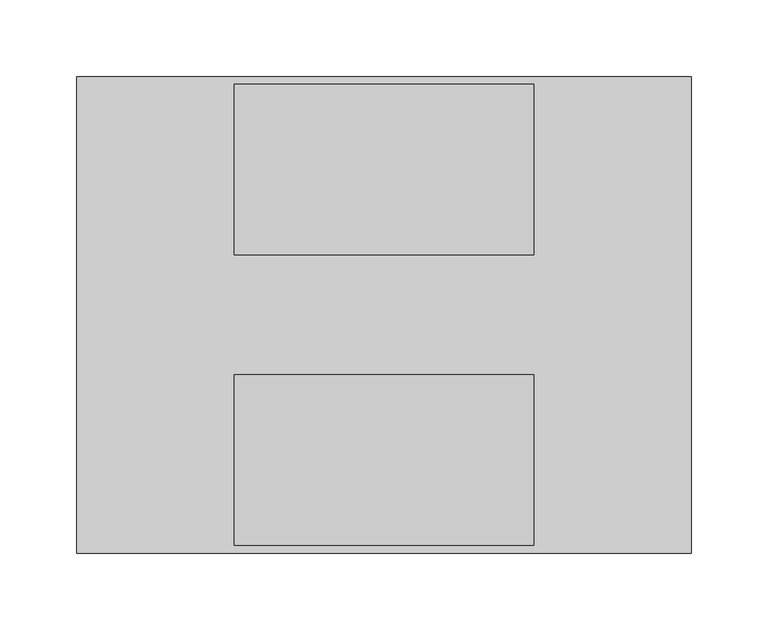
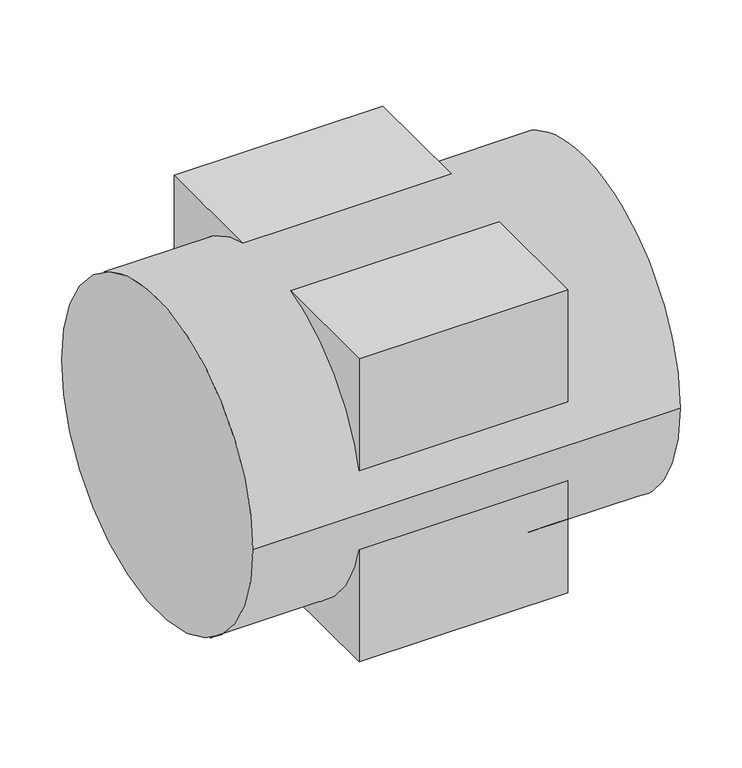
"""IFC4 building model written with IfcOpenShell, lengths in millimetres: damper geometry, 06_Клапан_Размер соединителя-2 : 02_Клапан_Геометрия."""

from ifc_helpers import new_model, si_unit, frame, origin, place, context, project, spatial, circle_curve, source, transform, mapped, element, save
from ifc_brep_helpers import plane_surface, cylinder_surface, advanced_brep


def damper_ff8d0813(model_context):
    return source(origin(), model_context, "Body", "AdvancedBrep", [
        advanced_brep(
        [(97.579916, -39.0512484, 150.0), (97.579916, -150.0, 150.0), (97.579916, -150.0, 39.0512484), (97.579916, -150.0, -39.0512484), (97.579916, -150.0, -150.0), (97.579916, -39.0512484, -150.0), (97.579916, 39.0512484, -150.0), (97.579916, 150.0, -150.0), (97.579916, 150.0, -39.0512484), (97.579916, 150.0, 150.0), (97.579916, 39.0512484, 150.0), (97.579916, 150.0, 39.0512484), (-97.579916, 150.0, -39.0512484), (-97.579916, 150.0, -150.0), (-97.579916, 39.0512484, -150.0), (-97.579916, -39.0512484, -150.0), (-97.579916, -150.0, -150.0), (-97.579916, -150.0, -39.0512484), (-97.579916, 150.0, 150.0), (-97.579916, 150.0, 39.0512484), (-97.579916, 39.0512484, 150.0), (-97.579916, -150.0, 39.0512484), (-97.579916, -150.0, 150.0), (-97.579916, -39.0512484, 150.0), (200.0, -155.0, 0.0), (200.0, 155.0, 0.0), (-200.0, -155.0, 0.0), (-200.0, 155.0, 0.0)],
        [
            (0, 1),
            (1, 2),
            (2, 0, circle_curve(frame((97.579916, 0.0, 0.0), z_axis=(-1.0, 0.0, 0.0), x_axis=(0.0, 1.0, 0.0)), 155.0)),
            (3, 4),
            (4, 5),
            (5, 3, circle_curve(frame((97.579916, 0.0, 0.0), z_axis=(-1.0, 0.0, 0.0), x_axis=(0.0, 1.0, 0.0)), 155.0)),
            (6, 7),
            (7, 8),
            (8, 6, circle_curve(frame((97.579916, 0.0, 0.0), z_axis=(-1.0, 0.0, 0.0), x_axis=(0.0, 1.0, 0.0)), 155.0)),
            (9, 10),
            (10, 11, circle_curve(frame((97.579916, 0.0, 0.0), z_axis=(-1.0, 0.0, 0.0), x_axis=(0.0, 1.0, 0.0)), 155.0)),
            (11, 9),
            (12, 13),
            (13, 14),
            (14, 12, circle_curve(frame((-97.579916, 0.0, 0.0), z_axis=(1.0, 0.0, 0.0), x_axis=(0.0, 1.0, 0.0)), 155.0)),
            (15, 16),
            (16, 17),
            (17, 15, circle_curve(frame((-97.579916, 0.0, 0.0), z_axis=(1.0, 0.0, 0.0), x_axis=(0.0, 1.0, 0.0)), 155.0)),
            (18, 19),
            (19, 20, circle_curve(frame((-97.579916, 0.0, 0.0), z_axis=(1.0, 0.0, 0.0), x_axis=(0.0, 1.0, 0.0)), 155.0)),
            (20, 18),
            (21, 22),
            (22, 23),
            (23, 21, circle_curve(frame((-97.579916, 0.0, 0.0), z_axis=(1.0, 0.0, 0.0), x_axis=(0.0, 1.0, 0.0)), 155.0)),
            (9, 18),
            (20, 10),
            (22, 1),
            (0, 23),
            (21, 2),
            (16, 4),
            (3, 17),
            (15, 5),
            (13, 7),
            (6, 14),
            (11, 19),
            (12, 8),
            (24, 25, circle_curve(frame((200.0, 0.0, 0.0), z_axis=(1.0, 0.0, 0.0), x_axis=(0.0, 1.0, 0.0)), 155.0)),
            (25, 24, circle_curve(frame((200.0, 0.0, 0.0), z_axis=(1.0, 0.0, 0.0), x_axis=(0.0, 1.0, 0.0)), 155.0)),
            (26, 27, circle_curve(frame((-200.0, 0.0, 0.0), z_axis=(-1.0, 0.0, 0.0), x_axis=(0.0, 1.0, 0.0)), 155.0)),
            (27, 26, circle_curve(frame((-200.0, 0.0, 0.0), z_axis=(-1.0, 0.0, 0.0), x_axis=(0.0, 1.0, 0.0)), 155.0)),
            (24, 26),
            (27, 25),
        ],
        [
            plane_surface(frame((97.579916, -150.0, 150.0), z_axis=(1.0, 0.0, 0.0), x_axis=(0.0, -1.0, 0.0))),
            plane_surface(frame((-97.579916, -150.0, 150.0), z_axis=(-1.0, 0.0, 0.0), x_axis=(0.0, 1.0, 0.0))),
            plane_surface(frame((97.579916, 150.0, 150.0), z_axis=(0.0, 0.0, 1.0), x_axis=(-1.0, 0.0, 0.0))),
            plane_surface(frame((97.579916, -150.0, 150.0), z_axis=(0.0, -1.0, 0.0), x_axis=(-1.0, 0.0, 0.0))),
            plane_surface(frame((97.579916, -150.0, -150.0), z_axis=(0.0, 0.0, -1.0), x_axis=(-1.0, 0.0, 0.0))),
            plane_surface(frame((97.579916, 150.0, -150.0), z_axis=(0.0, 1.0, 0.0), x_axis=(-1.0, 0.0, 0.0))),
            plane_surface(frame((200.0, 155.0, 0.0), z_axis=(1.0, 0.0, 0.0), x_axis=(0.0, 0.0, 1.0))),
            plane_surface(frame((-200.0, 155.0, 0.0), z_axis=(-1.0, 0.0, 0.0), x_axis=(0.0, 0.0, -1.0))),
            cylinder_surface(frame((-200.0, 0.0, 0.0), z_axis=(1.0, 0.0, 0.0), x_axis=(0.0, 1.0, 0.0)), 155.0),
        ],
        [
            (0, [[1, 2, 3]]),
            (0, [[4, 5, 6]]),
            (0, [[7, 8, 9]]),
            (0, [[10, 11, 12]]),
            (1, [[13, 14, 15]]),
            (1, [[16, 17, 18]]),
            (1, [[19, 20, 21]]),
            (1, [[22, 23, 24]]),
            (2, [[25, -21, 26, -10]]),
            (2, [[27, -1, 28, -23]]),
            (3, [[-27, -22, 29, -2]]),
            (3, [[30, -4, 31, -17]]),
            (4, [[-30, -16, 32, -5]]),
            (4, [[33, -7, 34, -14]]),
            (5, [[-25, -12, 35, -19]]),
            (5, [[-33, -13, 36, -8]]),
            (6, [[37, 38]]),
            (7, [[39, 40]]),
            (8, [[-37, 41, -40, 42], [-6, -32, -18, -31], [-9, -36, -15, -34]]),
            (8, [[-38, -42, -39, -41], [-3, -29, -24, -28], [-11, -26, -20, -35]]),
        ],
    ),
    ])


if __name__ == "__main__":
    model = new_model("IFC4")
    model_context = context("Model", 3, world=origin())
    ifc_project = project(units=[si_unit("LENGTHUNIT", "METRE", prefix="MILLI")], contexts=[model_context])
    site = spatial("IfcSite", under=ifc_project)
    building = spatial("IfcBuilding", under=site)
    placement = place(None, origin())
    damper_shape = damper_ff8d0813(model_context)
    element("IfcDamper", 1, ObjectType="06_Клапан_Размер соединителя-2 : 02_Клапан_Геометрия", at=placement, inside=building, context=model_context, shape_type="MappedRepresentation", body=[
        mapped(damper_shape, transform((0.0, 0.0, 0.0), x_axis=(1.0, 0.0, 0.0), y_axis=(0.0, 1.0, 0.0), z_axis=(0.0, 0.0, 1.0))),
    ])
    save(model, "model.ifc")
